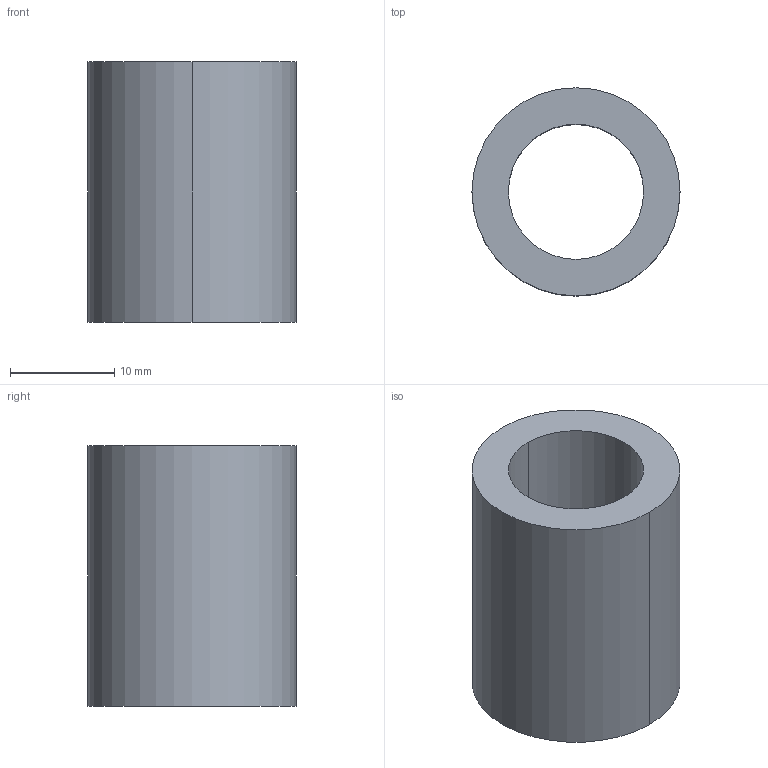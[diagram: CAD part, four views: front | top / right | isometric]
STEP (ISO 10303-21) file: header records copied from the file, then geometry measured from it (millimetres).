
FILE_DESCRIPTION(/* description */ (''),/* implementation_level */ '2;1');
FILE_NAME(/* name */ '3d_tgbm13-25_00320_r00.stp',/* time_stamp */ '2011-01-10T14:09:03+09:00',/* author */ ('MISUMI'),/* organization */ (''),/* preprocessor_version */ 'ST-DEVELOPER v11',/* originating_system */ 'UGS - NX 5.0',/* authorisation */ '');
FILE_SCHEMA (('CONFIG_CONTROL_DESIGN'));
Length unit declared in the file: millimetre
Products named in the file (1): 3d_tgbm13-25_00320_r00
Bounding box: 20 x 20 x 25 mm (x, y, z)
Volume: 4535.7 mm3; surface area: 2954.7 mm2
Topology: 1 solids, 1 shells, 6 faces, 12 edges, 8 vertices
Faces by surface type: cylinder 4, plane 2
Entity records: 254 total; most frequent: DIRECTION 34, CARTESIAN_POINT 27, ORIENTED_EDGE 24, AXIS2_PLACEMENT_3D 15, EDGE_CURVE 12, EDGE_LOOP 8, CIRCLE 8, VERTEX_POINT 8
